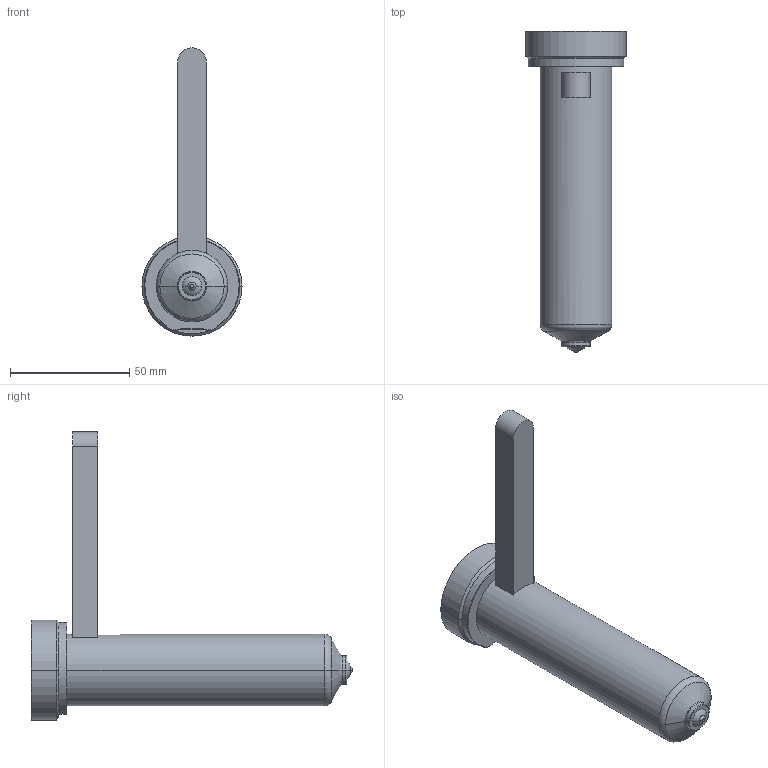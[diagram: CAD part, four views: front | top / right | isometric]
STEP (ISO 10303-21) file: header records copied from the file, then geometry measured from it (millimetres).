
FILE_DESCRIPTION((''),'2;1');
FILE_NAME('EO08_PG-BL_WR_120_COT','2024-02-19T11:07:07',('sundharh'),(''),'CREO PARAMETRIC BY PTC INC, 2023154','CREO PARAMETRIC BY PTC INC, 2023154','');
FILE_SCHEMA(('CONFIG_CONTROL_DESIGN'));
Length unit declared in the file: millimetre
Products named in the file (1): EO08_PG-BL_WR_120_COT
Bounding box: 42 x 135 x 121 mm (x, y, z)
Volume: 110697.1 mm3; surface area: 18926.3 mm2
Topology: 1 solids, 1 shells, 40 faces, 85 edges, 50 vertices
Faces by surface type: cylinder 13, plane 10, torus 9, cone 6, sphere 2
Entity records: 1185 total; most frequent: CARTESIAN_POINT 255, DIRECTION 209, ORIENTED_EDGE 170, AXIS2_PLACEMENT_3D 90, EDGE_CURVE 85, VERTEX_POINT 50, CIRCLE 50, EDGE_LOOP 43
